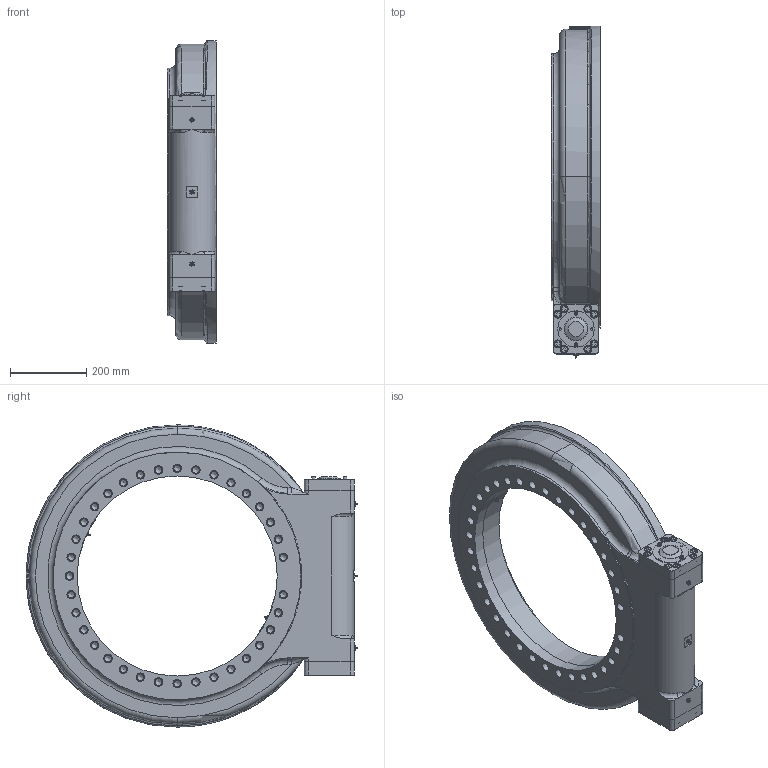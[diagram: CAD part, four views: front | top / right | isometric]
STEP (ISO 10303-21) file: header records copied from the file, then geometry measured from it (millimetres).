
FILE_DESCRIPTION (( 'STEP AP214' ), '1' );
FILE_NAME ('FWA25-104M-25H-R-REV.A.STEP', '2022-08-10T02:07:51', ( '' ), ( '' ), 'SwSTEP 2.0', 'SolidWorks 2018', '' );
FILE_SCHEMA (( 'AUTOMOTIVE_DESIGN' ));
Length unit declared in the file: millimetre
Products named in the file (1): FWA25-104M-25H-R-REV.A
Bounding box: 130 x 870.79 x 793 mm (x, y, z)
Volume: 24669269.7 mm3; surface area: 3252005.4 mm2
Topology: 26 solids, 27 shells, 1108 faces, 2328 edges, 1488 vertices
Faces by surface type: plane 462, cylinder 417, cone 142, torus 62, bspline 18, sphere 7
Full cylindrical faces by diameter (mm): 5 x4, 6 x4, 7 x9, 8 x3, 8.5 x2, 10 x11, 10.2 x22, 12 x22, 13 x4, 13.5 x16, 15 x2, 17.5 x71, 18 x16, 19 x2, 20 x92, 22 x35, 25.4 x1, 33.5 x1, 55 x5, 57 x1, 58.102 x1, 58.387 x1, 59.805 x1, 76.841 x1, 78.585 x1, 82.58 x1, 85 x4, 86 x2, 90 x2, 95 x1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
Entity records: 41353 total; most frequent: CARTESIAN_POINT 7299, DIRECTION 4718, ORIENTED_EDGE 3290, AXIS2_PLACEMENT_3D 2050, EDGE_LOOP 1992, EDGE_CURVE 1645, FACE_OUTER_BOUND 1508, VERTEX_POINT 1353
